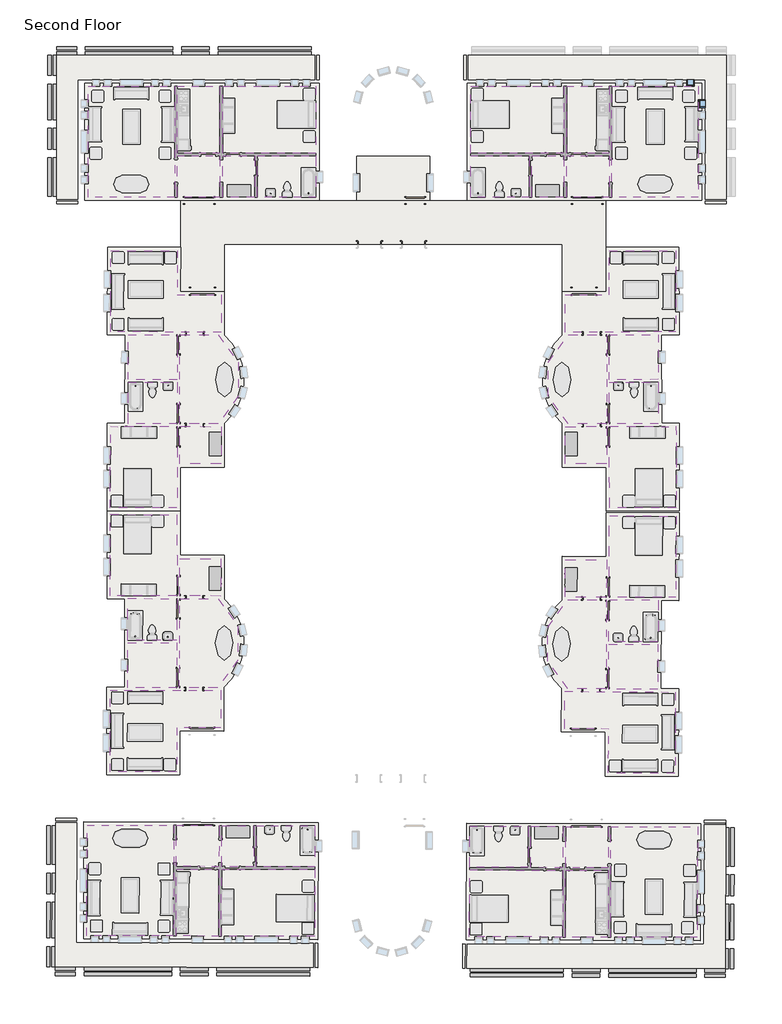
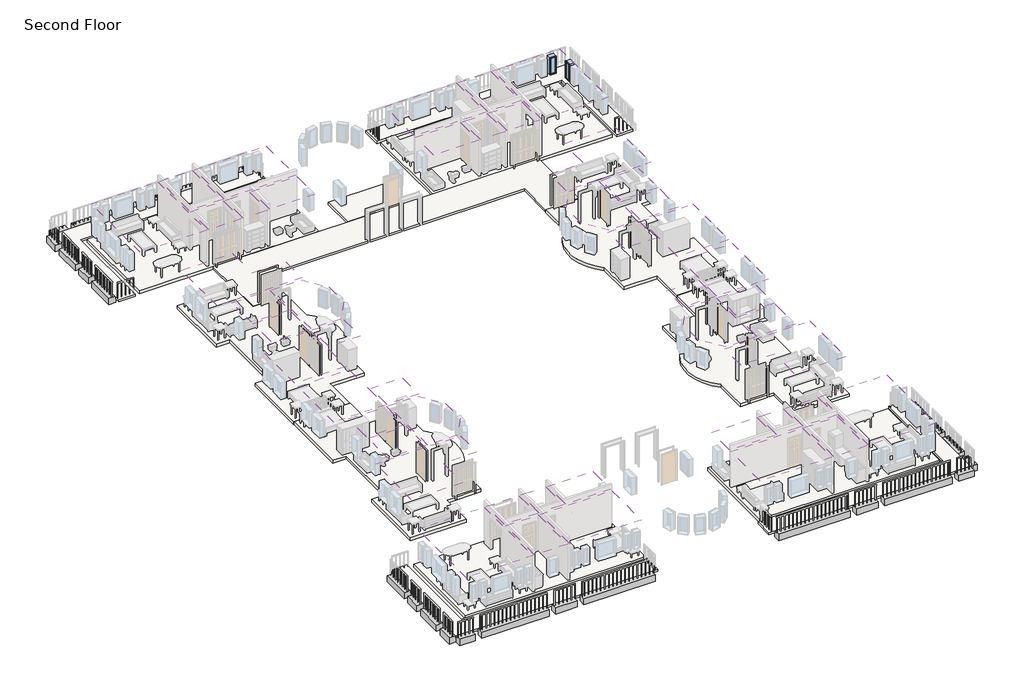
# One storey, part 3 of 8: 48 coverings, 14 slabs, 6 beams, 2 windows.
"""IFC4 building model written with IfcOpenShell, lengths in millimetres."""

from ifc_helpers import new_model, si_unit, point, frame, frame_2d, origin, place, context, project, spatial, polyline, circle_curve, trimmed, segment, composite_curve, outline, extrude, transform, mapped, element, save
from components import m_fixed_0406_x_1220mm_57fee329, m_fixed_0406_x_1220mm_85c28f40

model = new_model("IFC4")

# Units and contexts
model_context = context("Model", 3, world=origin())
ifc_project = project(units=[si_unit("LENGTHUNIT", "METRE", prefix="MILLI")], contexts=[model_context])

# Site, building, storey
site = spatial("IfcSite", under=ifc_project)
building = spatial("IfcBuilding", under=site)
storey = spatial("IfcBuildingStorey", under=building, Name="Second Floor", Elevation=3048.0)

# Beams
placement = place(None, origin())
element("IfcBeam", 1, ObjectType="M_Concrete-Rectangular Beam : 450 x 450", at=placement, inside=storey, context=model_context, shape_type="SweptSolid", body=[
    extrude(outline(polyline([(-36458.8416203, 4031.1188386), (-36458.8416203, 4481.1188386), (-35408.8416203, 4481.1188386), (-35408.8416203, 4031.1188386), (-36458.8416203, 4031.1188386)])), frame((0.0, 0.0, 2598.0), z_axis=(0.0, 0.0, 1.0), x_axis=(1.0, 0.0, 0.0)), (0.0, 0.0, 1.0), 450.0),
    extrude(outline(polyline([(-23216.8416203, 4481.1188386), (-23216.8416203, 4031.1188386), (-28058.8416203, 4031.1188386), (-28058.8416203, 4481.1188386), (-23216.8416203, 4481.1188386)])), frame((0.0, 0.0, 2598.0), z_axis=(0.0, 0.0, 1.0), x_axis=(1.0, 0.0, 0.0)), (0.0, 0.0, 1.0), 450.0),
    extrude(outline(polyline([(-34958.8416203, 4031.1188386), (-34958.8416203, 4481.1188386), (-30408.8416203, 4481.1188386), (-30408.8416203, 4031.1188386), (-34958.8416203, 4031.1188386)])), frame((0.0, 0.0, 2598.0), z_axis=(0.0, 0.0, 1.0), x_axis=(1.0, 0.0, 0.0)), (0.0, 0.0, 1.0), 450.0),
    extrude(outline(polyline([(-29958.8416203, 4031.1188386), (-29958.8416203, 4481.1188386), (-28508.8416203, 4481.1188386), (-28508.8416203, 4031.1188386), (-29958.8416203, 4031.1188386)])), frame((0.0, 0.0, 2598.0), z_axis=(0.0, 0.0, 1.0), x_axis=(1.0, 0.0, 0.0)), (0.0, 0.0, 1.0), 450.0),
])
element("IfcBeam", 2, ObjectType="M_Concrete-Rectangular Beam : 450 x 450", at=placement, inside=storey, context=model_context, shape_type="SweptSolid", body=[
    extrude(outline(polyline([(-36458.8416203, -3289.8811614), (-36908.8416203, -3289.8811614), (-36908.8416203, -1295.3811614), (-36458.8416203, -1295.3811614), (-36458.8416203, -3289.8811614)])), frame((0.0, 0.0, 2598.0), z_axis=(0.0, 0.0, 1.0), x_axis=(1.0, 0.0, 0.0)), (0.0, 0.0, 1.0), 450.0),
    extrude(outline(polyline([(-36458.8416203, 2981.1188386), (-36908.8416203, 2981.1188386), (-36908.8416203, 4031.1188386), (-36458.8416203, 4031.1188386), (-36458.8416203, 2981.1188386)])), frame((0.0, 0.0, 2598.0), z_axis=(0.0, 0.0, 1.0), x_axis=(1.0, 0.0, 0.0)), (0.0, 0.0, 1.0), 450.0),
    extrude(outline(polyline([(-36908.8416203, 2531.1188386), (-36458.8416203, 2531.1188386), (-36458.8416203, 681.1188386), (-36908.8416203, 681.1188386), (-36908.8416203, 2531.1188386)])), frame((0.0, 0.0, 2598.0), z_axis=(0.0, 0.0, 1.0), x_axis=(1.0, 0.0, 0.0)), (0.0, 0.0, 1.0), 450.0),
    extrude(outline(polyline([(-36908.8416203, 231.1188386), (-36458.8416203, 231.1188386), (-36458.8416203, -845.3811614), (-36908.8416203, -845.3811614), (-36908.8416203, 231.1188386)])), frame((0.0, 0.0, 2598.0), z_axis=(0.0, 0.0, 1.0), x_axis=(1.0, 0.0, 0.0)), (0.0, 0.0, 1.0), 450.0),
])
element("IfcBeam", 3, ObjectType="M_Concrete-Rectangular Beam : 450 x 450", at=placement, inside=storey, context=model_context, shape_type="SweptSolid", body=[
    extrude(outline(polyline([(-1712.0689607, -43451.2055858), (-1713.3716449, -43901.2037003), (-2763.3672453, -43898.1641037), (-2762.0645611, -43448.1659892), (-1712.0689607, -43451.2055858)])), frame((0.0, 0.0, 2598.0), z_axis=(0.0, 0.0, 1.0), x_axis=(1.0, 0.0, 0.0)), (0.0, 0.0, 1.0), 450.0),
    extrude(outline(polyline([(-14955.3161596, -43862.8700448), (-14954.0134754, -43412.8719303), (-10112.0337638, -43426.888813), (-10113.3364481, -43876.8869274), (-14955.3161596, -43862.8700448)])), frame((0.0, 0.0, 2598.0), z_axis=(0.0, 0.0, 1.0), x_axis=(1.0, 0.0, 0.0)), (0.0, 0.0, 1.0), 450.0),
    extrude(outline(polyline([(-3212.0626755, -43446.863305), (-3213.3653598, -43896.8614194), (-7763.3462948, -43883.6898341), (-7762.0436106, -43433.6917196), (-3212.0626755, -43446.863305)])), frame((0.0, 0.0, 2598.0), z_axis=(0.0, 0.0, 1.0), x_axis=(1.0, 0.0, 0.0)), (0.0, 0.0, 1.0), 450.0),
    extrude(outline(polyline([(-8212.041725, -43432.3890354), (-8213.3444093, -43882.3871498), (-9663.3383336, -43878.1896117), (-9662.0356494, -43428.1914972), (-8212.041725, -43432.3890354)])), frame((0.0, 0.0, 2598.0), z_axis=(0.0, 0.0, 1.0), x_axis=(1.0, 0.0, 0.0)), (0.0, 0.0, 1.0), 450.0),
])
element("IfcBeam", 4, ObjectType="M_Concrete-Rectangular Beam : 450 x 450", at=placement, inside=storey, context=model_context, shape_type="SweptSolid", body=[
    extrude(outline(polyline([(-1690.8757352, -36130.2362615), (-1240.8776207, -36131.5389458), (-1246.6514068, -38126.0305886), (-1696.6495213, -38124.7279044), (-1690.8757352, -36130.2362615)])), frame((0.0, 0.0, 2598.0), z_axis=(0.0, 0.0, 1.0), x_axis=(1.0, 0.0, 0.0)), (0.0, 0.0, 1.0), 450.0),
    extrude(outline(polyline([(-1709.0293641, -42401.2099854), (-1259.0312496, -42402.5126697), (-1262.0708462, -43452.5082701), (-1712.0689607, -43451.2055858), (-1709.0293641, -42401.2099854)])), frame((0.0, 0.0, 2598.0), z_axis=(0.0, 0.0, 1.0), x_axis=(1.0, 0.0, 0.0)), (0.0, 0.0, 1.0), 450.0),
    extrude(outline(polyline([(-1257.7285653, -41952.5145552), (-1707.7266798, -41951.211871), (-1702.3712001, -40101.2196227), (-1252.3730856, -40102.5223069), (-1257.7285653, -41952.5145552)])), frame((0.0, 0.0, 2598.0), z_axis=(0.0, 0.0, 1.0), x_axis=(1.0, 0.0, 0.0)), (0.0, 0.0, 1.0), 450.0),
    extrude(outline(polyline([(-1251.0704013, -39652.5241925), (-1701.0685158, -39651.2215082), (-1697.9522056, -38574.7260188), (-1247.9540911, -38576.0287031), (-1251.0704013, -39652.5241925)])), frame((0.0, 0.0, 2598.0), z_axis=(0.0, 0.0, 1.0), x_axis=(1.0, 0.0, 0.0)), (0.0, 0.0, 1.0), 450.0),
])
element("IfcBeam", 5, ObjectType="M_Concrete-Rectangular Beam : 450 x 450", at=placement, inside=storey, context=model_context, shape_type="SweptSolid", body=[
    extrude(outline(polyline([(-36528.7257646, -43800.4179138), (-36527.4230803, -43350.4197994), (-35477.4274799, -43353.459396), (-35478.7301642, -43803.4575104), (-36528.7257646, -43800.4179138)])), frame((0.0, 0.0, 2598.0), z_axis=(0.0, 0.0, 1.0), x_axis=(1.0, 0.0, 0.0)), (0.0, 0.0, 1.0), 450.0),
    extrude(outline(polyline([(-23285.4785656, -43388.7534549), (-23286.7812498, -43838.7515694), (-28128.7609614, -43824.7346867), (-28127.4582771, -43374.7365723), (-23285.4785656, -43388.7534549)])), frame((0.0, 0.0, 2598.0), z_axis=(0.0, 0.0, 1.0), x_axis=(1.0, 0.0, 0.0)), (0.0, 0.0, 1.0), 450.0),
    extrude(outline(polyline([(-35028.7320497, -43804.7601947), (-35027.4293654, -43354.7620803), (-30477.4484304, -43367.9336656), (-30478.7511147, -43817.93178), (-35028.7320497, -43804.7601947)])), frame((0.0, 0.0, 2598.0), z_axis=(0.0, 0.0, 1.0), x_axis=(1.0, 0.0, 0.0)), (0.0, 0.0, 1.0), 450.0),
    extrude(outline(polyline([(-30028.7530002, -43819.2344643), (-30027.4503159, -43369.2363498), (-28577.4563916, -43373.433888), (-28578.7590758, -43823.4320025), (-30028.7530002, -43819.2344643)])), frame((0.0, 0.0, 2598.0), z_axis=(0.0, 0.0, 1.0), x_axis=(1.0, 0.0, 0.0)), (0.0, 0.0, 1.0), 450.0),
])
element("IfcBeam", 6, ObjectType="M_Concrete-Rectangular Beam : 450 x 450", at=placement, inside=storey, context=model_context, shape_type="SweptSolid", body=[
    extrude(outline(polyline([(-36974.3815981, -42299.1215147), (-36524.3834837, -42300.424199), (-36527.4230803, -43350.4197994), (-36977.4211948, -43349.1171151), (-36974.3815981, -42299.1215147)])), frame((0.0, 0.0, 2598.0), z_axis=(0.0, 0.0, 1.0), x_axis=(1.0, 0.0, 0.0)), (0.0, 0.0, 1.0), 450.0),
    extrude(outline(polyline([(-36956.2279692, -36028.1477908), (-36506.2298548, -36029.4504751), (-36512.0036409, -38023.9421179), (-36962.0017554, -38022.6394337), (-36956.2279692, -36028.1477908)])), frame((0.0, 0.0, 2598.0), z_axis=(0.0, 0.0, 1.0), x_axis=(1.0, 0.0, 0.0)), (0.0, 0.0, 1.0), 450.0),
    extrude(outline(polyline([(-36523.0807994, -41850.4260845), (-36973.0789139, -41849.1234003), (-36967.7234341, -39999.1311519), (-36517.7253197, -40000.4338362), (-36523.0807994, -41850.4260845)])), frame((0.0, 0.0, 2598.0), z_axis=(0.0, 0.0, 1.0), x_axis=(1.0, 0.0, 0.0)), (0.0, 0.0, 1.0), 450.0),
    extrude(outline(polyline([(-36516.4226354, -39550.4357218), (-36966.4207499, -39549.1330375), (-36963.3044396, -38472.6375481), (-36513.3063252, -38473.9402324), (-36516.4226354, -39550.4357218)])), frame((0.0, 0.0, 2598.0), z_axis=(0.0, 0.0, 1.0), x_axis=(1.0, 0.0, 0.0)), (0.0, 0.0, 1.0), 450.0),
])

# Coverings
element("IfcCovering", 7, ObjectType="Plain", at=placement, inside=storey, context=model_context, shape_type="SweptSolid", body=[
    extrude(outline(polyline([(-14935.3416203, 2406.1188386), (-10086.8416203, 2406.1188386), (-10086.8416203, -1070.3811614), (-14935.3416203, -1070.3811614), (-14935.3416203, 2406.1188386)])), frame((0.0, 0.0, 5638.0), z_axis=(0.0, 0.0, 1.0), x_axis=(1.0, 0.0, 0.0)), (0.0, 0.0, 1.0), 57.0),
])
element("IfcCovering", 8, ObjectType="Plain", at=placement, inside=storey, context=model_context, shape_type="SweptSolid", body=[
    extrude(outline(polyline([(-9951.3416203, -1070.3811614), (-9951.3416203, 2406.1188386), (-7733.0916203, 2406.1188386), (-7733.0916203, -1070.3811614), (-9951.3416203, -1070.3811614)])), frame((0.0, 0.0, 5638.0), z_axis=(0.0, 0.0, 1.0), x_axis=(1.0, 0.0, 0.0)), (0.0, 0.0, 1.0), 57.0),
])
element("IfcCovering", 9, ObjectType="Plain", at=placement, inside=storey, context=model_context, shape_type="SweptSolid", body=[
    extrude(outline(polyline([(-7597.5916203, -3339.8811614), (-7597.5916203, 2406.1188386), (-3093.3416203, 2406.1188386), (-3093.3416203, -3339.8811614), (-7597.5916203, -3339.8811614)])), frame((0.0, 0.0, 5638.0), z_axis=(0.0, 0.0, 1.0), x_axis=(1.0, 0.0, 0.0)), (0.0, 0.0, 1.0), 57.0),
])
element("IfcCovering", 10, ObjectType="Plain", at=placement, inside=storey, context=model_context, shape_type="SweptSolid", body=[
    extrude(outline(polyline([(-7733.0916203, -3339.8811614), (-9951.3416203, -3339.8811614), (-9951.3416203, -1205.8811614), (-7733.0916203, -1205.8811614), (-7733.0916203, -3339.8811614)])), frame((0.0, 0.0, 5638.0), z_axis=(0.0, 0.0, 1.0), x_axis=(1.0, 0.0, 0.0)), (0.0, 0.0, 1.0), 57.0),
])
element("IfcCovering", 11, ObjectType="Plain", at=placement, inside=storey, context=model_context, shape_type="SweptSolid", body=[
    extrude(outline(polyline([(-11887.3416203, -1205.8811614), (-11887.3416203, -3339.8811614), (-14935.3416203, -3339.8811614), (-14935.3416203, -1205.8811614), (-11887.3416203, -1205.8811614)])), frame((0.0, 0.0, 5638.0), z_axis=(0.0, 0.0, 1.0), x_axis=(1.0, 0.0, 0.0)), (0.0, 0.0, 1.0), 57.0),
])
element("IfcCovering", 12, ObjectType="Plain", at=placement, inside=storey, context=model_context, shape_type="SweptSolid", body=[
    extrude(outline(polyline([(-10086.8416203, -3339.8811614), (-11751.8416203, -3339.8811614), (-11751.8416203, -1205.8811614), (-10086.8416203, -1205.8811614), (-10086.8416203, -3339.8811614)])), frame((0.0, 0.0, 5638.0), z_axis=(0.0, 0.0, 1.0), x_axis=(1.0, 0.0, 0.0)), (0.0, 0.0, 1.0), 57.0),
])
element("IfcCovering", 13, ObjectType="Plain", at=placement, inside=storey, context=model_context, shape_type="SweptSolid", body=[
    extrude(outline(polyline([(-7719.603401, -17382.7647995), (-7726.8533934, -17382.7752934), (-7729.9194088, -15264.5275123), (-5002.0722663, -15260.5791445), (-5002.0617724, -15267.829137), (-4262.662547, -15266.7589083), (-4256.5515039, -19488.7544857), (-7716.5478795, -19493.7625882), (-7719.603401, -17382.7647995)])), frame((0.0, 0.0, 5639.0), z_axis=(0.0, 0.0, 1.0), x_axis=(1.0, 0.0, 0.0)), (0.0, 0.0, 1.0), 57.0),
])
element("IfcCovering", 14, ObjectType="Plain", at=placement, inside=storey, context=model_context, shape_type="SweptSolid", body=[
    extrude(outline(polyline([(-7730.1155353, -15129.0276542), (-7733.2504483, -12963.179923), (-5180.4031225, -12959.4848553), (-5177.2682095, -15125.3325865), (-7730.1155353, -15129.0276542)])), frame((0.0, 0.0, 5639.0), z_axis=(0.0, 0.0, 1.0), x_axis=(1.0, 0.0, 0.0)), (0.0, 0.0, 1.0), 57.0),
])
element("IfcCovering", 15, ObjectType="Plain", at=placement, inside=storey, context=model_context, shape_type="SweptSolid", body=[
    extrude(outline(polyline([(-7733.4465749, -12827.680065), (-7736.8265375, -10492.5325111), (-5183.9792116, -10488.8374433), (-5180.599249, -12823.9849972), (-7733.4465749, -12827.680065)])), frame((0.0, 0.0, 5639.0), z_axis=(0.0, 0.0, 1.0), x_axis=(1.0, 0.0, 0.0)), (0.0, 0.0, 1.0), 57.0),
])
element("IfcCovering", 16, ObjectType="Plain", at=placement, inside=storey, context=model_context, shape_type="SweptSolid", body=[
    extrude(outline(polyline([(-10015.770277, -10360.3309807), (-10018.5829924, -8417.0830163), (-7732.585387, -8413.7741948), (-7735.8942085, -6127.7765894), (-4275.8978329, -6122.7684869), (-4269.7867899, -10344.7640643), (-5009.1860154, -10345.8342929), (-5009.1755215, -10353.0842853), (-10015.770277, -10360.3309807)])), frame((0.0, 0.0, 5639.0), z_axis=(0.0, 0.0, 1.0), x_axis=(1.0, 0.0, 0.0)), (0.0, 0.0, 1.0), 57.0),
])
element("IfcCovering", 17, ObjectType="Plain", at=placement, inside=storey, context=model_context, shape_type="SweptSolid", body=[
    extrude(outline(composite_curve([segment(polyline([(-9871.5226854, -10495.6223343), (-7872.3263955, -10492.7286377), (-7865.6153934, -15129.2237808), (-9864.8116833, -15132.1174775)]), True, "CONTINUOUS"), segment(trimmed(circle_curve(frame_2d((-8171.1580789, -12811.413604)), 2873.0), [point((-9864.8116833, -15132.1174775))], [point((-9871.5226854, -10495.6223343))], False, "CARTESIAN"), True, "CONTINUOUS")], self_intersect=False)), frame((0.0, 0.0, 5639.0), z_axis=(0.0, 0.0, 1.0), x_axis=(1.0, 0.0, 0.0)), (0.0, 0.0, 1.0), 57.0),
])
element("IfcCovering", 18, ObjectType="Plain", at=placement, inside=storey, context=model_context, shape_type="SweptSolid", body=[
    extrude(outline(polyline([(-10008.6670217, -15267.8258399), (-7865.4192668, -15264.7236389), (-7862.6065515, -17207.9716033), (-10005.8543064, -17211.0738043), (-10008.6670217, -15267.8258399)])), frame((0.0, 0.0, 5639.0), z_axis=(0.0, 0.0, 1.0), x_axis=(1.0, 0.0, 0.0)), (0.0, 0.0, 1.0), 57.0),
])
element("IfcCovering", 19, ObjectType="Plain", at=placement, inside=storey, context=model_context, shape_type="SweptSolid", body=[
    extrude(outline(polyline([(-22978.8416203, 2406.1188386), (-22978.8416203, -1070.3811614), (-27827.3416203, -1070.3811614), (-27827.3416203, 2406.1188386), (-22978.8416203, 2406.1188386)])), frame((0.0, 0.0, 5638.0), z_axis=(0.0, 0.0, 1.0), x_axis=(1.0, 0.0, 0.0)), (0.0, 0.0, 1.0), 57.0),
])
element("IfcCovering", 20, ObjectType="Plain", at=placement, inside=storey, context=model_context, shape_type="SweptSolid", body=[
    extrude(outline(polyline([(-27962.8416203, -1070.3811614), (-30181.0916203, -1070.3811614), (-30181.0916203, 2406.1188386), (-27962.8416203, 2406.1188386), (-27962.8416203, -1070.3811614)])), frame((0.0, 0.0, 5638.0), z_axis=(0.0, 0.0, 1.0), x_axis=(1.0, 0.0, 0.0)), (0.0, 0.0, 1.0), 57.0),
])
element("IfcCovering", 21, ObjectType="Plain", at=placement, inside=storey, context=model_context, shape_type="SweptSolid", body=[
    extrude(outline(polyline([(-30316.5916203, -3339.8811614), (-34820.8416203, -3339.8811614), (-34820.8416203, 2406.1188386), (-30316.5916203, 2406.1188386), (-30316.5916203, -3339.8811614)])), frame((0.0, 0.0, 5638.0), z_axis=(0.0, 0.0, 1.0), x_axis=(1.0, 0.0, 0.0)), (0.0, 0.0, 1.0), 57.0),
])
element("IfcCovering", 22, ObjectType="Plain", at=placement, inside=storey, context=model_context, shape_type="SweptSolid", body=[
    extrude(outline(polyline([(-30181.0916203, -3339.8811614), (-30181.0916203, -1205.8811614), (-27962.8416203, -1205.8811614), (-27962.8416203, -3339.8811614), (-30181.0916203, -3339.8811614)])), frame((0.0, 0.0, 5638.0), z_axis=(0.0, 0.0, 1.0), x_axis=(1.0, 0.0, 0.0)), (0.0, 0.0, 1.0), 57.0),
])
element("IfcCovering", 23, ObjectType="Plain", at=placement, inside=storey, context=model_context, shape_type="SweptSolid", body=[
    extrude(outline(polyline([(-26026.8416203, -1205.8811614), (-22978.8416203, -1205.8811614), (-22978.8416203, -3339.8811614), (-26026.8416203, -3339.8811614), (-26026.8416203, -1205.8811614)])), frame((0.0, 0.0, 5638.0), z_axis=(0.0, 0.0, 1.0), x_axis=(1.0, 0.0, 0.0)), (0.0, 0.0, 1.0), 57.0),
])
element("IfcCovering", 24, ObjectType="Plain", at=placement, inside=storey, context=model_context, shape_type="SweptSolid", body=[
    extrude(outline(polyline([(-27827.3416203, -3339.8811614), (-27827.3416203, -1205.8811614), (-26162.3416203, -1205.8811614), (-26162.3416203, -3339.8811614), (-27827.3416203, -3339.8811614)])), frame((0.0, 0.0, 5638.0), z_axis=(0.0, 0.0, 1.0), x_axis=(1.0, 0.0, 0.0)), (0.0, 0.0, 1.0), 57.0),
])
element("IfcCovering", 25, ObjectType="Plain", at=placement, inside=storey, context=model_context, shape_type="SweptSolid", body=[
    extrude(outline(polyline([(-30194.5798396, -17382.7647995), (-30197.6353611, -19493.7625882), (-33657.6317367, -19488.7544857), (-33651.5206937, -15266.7589083), (-32912.1214682, -15267.829137), (-32912.1109744, -15260.5791445), (-30184.2638319, -15264.5275123), (-30187.3298472, -17382.7752934), (-30194.5798396, -17382.7647995)])), frame((0.0, 0.0, 5639.0), z_axis=(0.0, 0.0, 1.0), x_axis=(1.0, 0.0, 0.0)), (0.0, 0.0, 1.0), 57.0),
])
element("IfcCovering", 26, ObjectType="Plain", at=placement, inside=storey, context=model_context, shape_type="SweptSolid", body=[
    extrude(outline(polyline([(-30184.0677053, -15129.0276542), (-32736.9150311, -15125.3325865), (-32733.7801182, -12959.4848553), (-30180.9327923, -12963.179923), (-30184.0677053, -15129.0276542)])), frame((0.0, 0.0, 5639.0), z_axis=(0.0, 0.0, 1.0), x_axis=(1.0, 0.0, 0.0)), (0.0, 0.0, 1.0), 57.0),
])
element("IfcCovering", 27, ObjectType="Plain", at=placement, inside=storey, context=model_context, shape_type="SweptSolid", body=[
    extrude(outline(polyline([(-30180.7366658, -12827.680065), (-32733.5839916, -12823.9849972), (-32730.204029, -10488.8374433), (-30177.3567032, -10492.5325111), (-30180.7366658, -12827.680065)])), frame((0.0, 0.0, 5639.0), z_axis=(0.0, 0.0, 1.0), x_axis=(1.0, 0.0, 0.0)), (0.0, 0.0, 1.0), 57.0),
])
element("IfcCovering", 28, ObjectType="Plain", at=placement, inside=storey, context=model_context, shape_type="SweptSolid", body=[
    extrude(outline(polyline([(-27898.4129637, -10360.3309807), (-32905.0077191, -10353.0842853), (-32904.9972253, -10345.8342929), (-33644.3964507, -10344.7640643), (-33638.2854077, -6122.7684869), (-30178.2890322, -6127.7765894), (-30181.5978537, -8413.7741948), (-27895.6002483, -8417.0830163), (-27898.4129637, -10360.3309807)])), frame((0.0, 0.0, 5639.0), z_axis=(0.0, 0.0, 1.0), x_axis=(1.0, 0.0, 0.0)), (0.0, 0.0, 1.0), 57.0),
])
element("IfcCovering", 29, ObjectType="Plain", at=placement, inside=storey, context=model_context, shape_type="SweptSolid", body=[
    extrude(outline(composite_curve([segment(trimmed(circle_curve(frame_2d((-29743.0251618, -12811.413604)), 2873.0), [point((-28042.6605552, -10495.6223343))], [point((-28049.3715573, -15132.1174775))], False, "CARTESIAN"), True, "CONTINUOUS"), segment(polyline([(-28049.3715573, -15132.1174775), (-30048.5678472, -15129.2237808), (-30041.8568451, -10492.7286377), (-28042.6605552, -10495.6223343)]), True, "CONTINUOUS")], self_intersect=False)), frame((0.0, 0.0, 5639.0), z_axis=(0.0, 0.0, 1.0), x_axis=(1.0, 0.0, 0.0)), (0.0, 0.0, 1.0), 57.0),
])
element("IfcCovering", 30, ObjectType="Plain", at=placement, inside=storey, context=model_context, shape_type="SweptSolid", body=[
    extrude(outline(polyline([(-27905.5162189, -15267.8258399), (-27908.3289343, -17211.0738043), (-30051.5766892, -17207.9716033), (-30048.7639738, -15264.7236389), (-27905.5162189, -15267.8258399)])), frame((0.0, 0.0, 5639.0), z_axis=(0.0, 0.0, 1.0), x_axis=(1.0, 0.0, 0.0)), (0.0, 0.0, 1.0), 57.0),
])
element("IfcCovering", 31, ObjectType="Plain", at=placement, inside=storey, context=model_context, shape_type="SweptSolid", body=[
    extrude(outline(polyline([(-14999.3091283, -41787.7339965), (-14989.2451686, -38311.2485634), (-10140.7654843, -38325.2842626), (-10150.829444, -41801.7696957), (-14999.3091283, -41787.7339965)])), frame((0.0, 0.0, 5638.0), z_axis=(0.0, 0.0, 1.0), x_axis=(1.0, 0.0, 0.0)), (0.0, 0.0, 1.0), 57.0),
])
element("IfcCovering", 32, ObjectType="Plain", at=placement, inside=storey, context=model_context, shape_type="SweptSolid", body=[
    extrude(outline(polyline([(-10005.2660521, -38325.6765153), (-7787.0253468, -38332.098025), (-7797.0893064, -41808.5834581), (-10015.3300117, -41802.1619484), (-10005.2660521, -38325.6765153)])), frame((0.0, 0.0, 5638.0), z_axis=(0.0, 0.0, 1.0), x_axis=(1.0, 0.0, 0.0)), (0.0, 0.0, 1.0), 57.0),
])
element("IfcCovering", 33, ObjectType="Plain", at=placement, inside=storey, context=model_context, shape_type="SweptSolid", body=[
    extrude(outline(polyline([(-7644.9560436, -36062.9997871), (-3140.7249168, -36076.0389329), (-3157.3587474, -41822.0148566), (-7661.5898742, -41808.9757108), (-7644.9560436, -36062.9997871)])), frame((0.0, 0.0, 5638.0), z_axis=(0.0, 0.0, 1.0), x_axis=(1.0, 0.0, 0.0)), (0.0, 0.0, 1.0), 57.0),
])
element("IfcCovering", 34, ObjectType="Plain", at=placement, inside=storey, context=model_context, shape_type="SweptSolid", body=[
    extrude(outline(polyline([(-7780.4554758, -36062.6075344), (-7786.6330941, -38196.5985928), (-10004.8737994, -38190.1770831), (-9998.6961811, -36056.1860247), (-7780.4554758, -36062.6075344)])), frame((0.0, 0.0, 5638.0), z_axis=(0.0, 0.0, 1.0), x_axis=(1.0, 0.0, 0.0)), (0.0, 0.0, 1.0), 57.0),
])
element("IfcCovering", 35, ObjectType="Plain", at=placement, inside=storey, context=model_context, shape_type="SweptSolid", body=[
    extrude(outline(polyline([(-11940.8656874, -38184.5726459), (-14988.8529159, -38175.7491311), (-14982.6752977, -36041.7580728), (-11934.6880691, -36050.5815875), (-11940.8656874, -38184.5726459)])), frame((0.0, 0.0, 5638.0), z_axis=(0.0, 0.0, 1.0), x_axis=(1.0, 0.0, 0.0)), (0.0, 0.0, 1.0), 57.0),
])
element("IfcCovering", 36, ObjectType="Plain", at=placement, inside=storey, context=model_context, shape_type="SweptSolid", body=[
    extrude(outline(polyline([(-10134.1956134, -36055.793772), (-10140.3732316, -38189.7848304), (-11805.3662551, -38184.9648986), (-11799.1886369, -36050.9738403), (-10134.1956134, -36055.793772)])), frame((0.0, 0.0, 5638.0), z_axis=(0.0, 0.0, 1.0), x_axis=(1.0, 0.0, 0.0)), (0.0, 0.0, 1.0), 57.0),
])
element("IfcCovering", 37, ObjectType="Plain", at=placement, inside=storey, context=model_context, shape_type="SweptSolid", body=[
    extrude(outline(polyline([(-7726.3152164, -22019.8217838), (-7717.1486774, -19908.8416857), (-4257.1812973, -19923.8659512), (-4275.5143752, -24145.8261474), (-5014.9074043, -24142.6154706), (-5014.9388858, -24149.8654022), (-7742.7631684, -24138.020332), (-7733.565148, -22019.7903023), (-7726.3152164, -22019.8217838)])), frame((0.0, 0.0, 5639.0), z_axis=(0.0, 0.0, 1.0), x_axis=(1.0, 0.0, 0.0)), (0.0, 0.0, 1.0), 57.0),
])
element("IfcCovering", 38, ObjectType="Plain", at=placement, inside=storey, context=model_context, shape_type="SweptSolid", body=[
    extrude(outline(polyline([(-7743.3515464, -24273.5190546), (-5190.525614, -24284.6042269), (-5199.9303266, -26450.4338079), (-7752.756259, -26439.3486356), (-7743.3515464, -24273.5190546)])), frame((0.0, 0.0, 5639.0), z_axis=(0.0, 0.0, 1.0), x_axis=(1.0, 0.0, 0.0)), (0.0, 0.0, 1.0), 57.0),
])
element("IfcCovering", 39, ObjectType="Plain", at=placement, inside=storey, context=model_context, shape_type="SweptSolid", body=[
    extrude(outline(polyline([(-7753.3446371, -26574.8473581), (-5200.5187046, -26585.9325305), (-5210.6585641, -28921.0605153), (-7763.4844965, -28909.975343), (-7753.3446371, -26574.8473581)])), frame((0.0, 0.0, 5639.0), z_axis=(0.0, 0.0, 1.0), x_axis=(1.0, 0.0, 0.0)), (0.0, 0.0, 1.0), 57.0),
])
element("IfcCovering", 40, ObjectType="Plain", at=placement, inside=storey, context=model_context, shape_type="SweptSolid", body=[
    extrude(outline(polyline([(-10042.8013912, -29035.5791103), (-5036.248592, -29057.3191357), (-5036.2800734, -29064.5690674), (-4296.8870443, -29067.7797442), (-4315.2201221, -33289.7399404), (-7775.1875022, -33274.7156749), (-7765.2610655, -30988.7372266), (-10051.2395137, -30978.8107899), (-10042.8013912, -29035.5791103)])), frame((0.0, 0.0, 5639.0), z_axis=(0.0, 0.0, 1.0), x_axis=(1.0, 0.0, 0.0)), (0.0, 0.0, 1.0), 57.0),
])
element("IfcCovering", 41, ObjectType="Plain", at=placement, inside=storey, context=model_context, shape_type="SweptSolid", body=[
    extrude(outline(composite_curve([segment(trimmed(circle_curve(frame_2d((-8191.1013961, -26589.84664)), 2873.0), [point((-9898.1627553, -28900.7058992))], [point((-9878.0298052, -24264.2496108))], False, "CARTESIAN"), True, "CONTINUOUS"), segment(polyline([(-9878.0298052, -24264.2496108), (-7878.850269, -24272.9306765), (-7898.9832191, -28909.3869649), (-9898.1627553, -28900.7058992)]), True, "CONTINUOUS")], self_intersect=False)), frame((0.0, 0.0, 5639.0), z_axis=(0.0, 0.0, 1.0), x_axis=(1.0, 0.0, 0.0)), (0.0, 0.0, 1.0), 57.0),
])
element("IfcCovering", 42, ObjectType="Plain", at=placement, inside=storey, context=model_context, shape_type="SweptSolid", body=[
    extrude(outline(polyline([(-10021.491685, -24128.1253768), (-10013.0535624, -22184.8936972), (-7869.8237684, -22194.2002744), (-7878.2618909, -24137.431954), (-10021.491685, -24128.1253768)])), frame((0.0, 0.0, 5639.0), z_axis=(0.0, 0.0, 1.0), x_axis=(1.0, 0.0, 0.0)), (0.0, 0.0, 1.0), 57.0),
])
element("IfcCovering", 43, ObjectType="Plain", at=placement, inside=storey, context=model_context, shape_type="SweptSolid", body=[
    extrude(outline(polyline([(-23042.7754252, -41764.4492391), (-27891.2551095, -41750.4135399), (-27881.1911499, -38273.9281067), (-23032.7114656, -38287.9638059), (-23042.7754252, -41764.4492391)])), frame((0.0, 0.0, 5638.0), z_axis=(0.0, 0.0, 1.0), x_axis=(1.0, 0.0, 0.0)), (0.0, 0.0, 1.0), 57.0),
])
element("IfcCovering", 44, ObjectType="Plain", at=placement, inside=storey, context=model_context, shape_type="SweptSolid", body=[
    extrude(outline(polyline([(-28016.6905821, -38273.535854), (-28026.7545418, -41750.0212871), (-30244.9952471, -41743.5997775), (-30234.9312874, -38267.1143443), (-28016.6905821, -38273.535854)])), frame((0.0, 0.0, 5638.0), z_axis=(0.0, 0.0, 1.0), x_axis=(1.0, 0.0, 0.0)), (0.0, 0.0, 1.0), 57.0),
])
element("IfcCovering", 45, ObjectType="Plain", at=placement, inside=storey, context=model_context, shape_type="SweptSolid", body=[
    extrude(outline(polyline([(-30363.8608487, -35997.2316011), (-30380.4946793, -41743.2075247), (-34884.7258061, -41730.168379), (-34868.0919755, -35984.1924553), (-30363.8608487, -35997.2316011)])), frame((0.0, 0.0, 5638.0), z_axis=(0.0, 0.0, 1.0), x_axis=(1.0, 0.0, 0.0)), (0.0, 0.0, 1.0), 57.0),
])
element("IfcCovering", 46, ObjectType="Plain", at=placement, inside=storey, context=model_context, shape_type="SweptSolid", body=[
    extrude(outline(polyline([(-30228.3614165, -35997.6238538), (-28010.1207112, -36004.0453635), (-28016.2983294, -38138.0364218), (-30234.5390347, -38131.6149121), (-30228.3614165, -35997.6238538)])), frame((0.0, 0.0, 5638.0), z_axis=(0.0, 0.0, 1.0), x_axis=(1.0, 0.0, 0.0)), (0.0, 0.0, 1.0), 57.0),
])
element("IfcCovering", 47, ObjectType="Plain", at=placement, inside=storey, context=model_context, shape_type="SweptSolid", body=[
    extrude(outline(polyline([(-26080.3064415, -38143.640859), (-26074.1288232, -36009.6498006), (-23026.1415946, -36018.4733154), (-23032.3192129, -38152.4643737), (-26080.3064415, -38143.640859)])), frame((0.0, 0.0, 5638.0), z_axis=(0.0, 0.0, 1.0), x_axis=(1.0, 0.0, 0.0)), (0.0, 0.0, 1.0), 57.0),
])
element("IfcCovering", 48, ObjectType="Plain", at=placement, inside=storey, context=model_context, shape_type="SweptSolid", body=[
    extrude(outline(polyline([(-27874.6212789, -36004.4376162), (-26209.6282554, -36009.2575479), (-26215.8058737, -38143.2486063), (-27880.7988972, -38138.4286745), (-27874.6212789, -36004.4376162)])), frame((0.0, 0.0, 5638.0), z_axis=(0.0, 0.0, 1.0), x_axis=(1.0, 0.0, 0.0)), (0.0, 0.0, 1.0), 57.0),
])
element("IfcCovering", 49, ObjectType="Plain", at=placement, inside=storey, context=model_context, shape_type="SweptSolid", body=[
    extrude(outline(polyline([(-30201.1974826, -21954.7600102), (-30193.9474902, -21954.7705041), (-30197.0135056, -24073.0182852), (-32924.8606481, -24069.0699174), (-32924.8501542, -24061.819925), (-33664.2493797, -24060.7496964), (-33658.1383367, -19838.7541191), (-30198.1419611, -19843.7622216), (-30201.1974826, -21954.7600102)])), frame((0.0, 0.0, 5639.0), z_axis=(0.0, 0.0, 1.0), x_axis=(1.0, 0.0, 0.0)), (0.0, 0.0, 1.0), 57.0),
])
element("IfcCovering", 50, ObjectType="Plain", at=placement, inside=storey, context=model_context, shape_type="SweptSolid", body=[
    extrude(outline(polyline([(-30197.2096321, -24208.5181432), (-30200.3445451, -26374.3658745), (-32753.1918709, -26370.6708067), (-32750.056958, -24204.8230755), (-30197.2096321, -24208.5181432)])), frame((0.0, 0.0, 5639.0), z_axis=(0.0, 0.0, 1.0), x_axis=(1.0, 0.0, 0.0)), (0.0, 0.0, 1.0), 57.0),
])
element("IfcCovering", 51, ObjectType="Plain", at=placement, inside=storey, context=model_context, shape_type="SweptSolid", body=[
    extrude(outline(polyline([(-30200.5406716, -26509.8657325), (-30203.9206342, -28845.0132864), (-32756.7679601, -28841.3182186), (-32753.3879975, -26506.1706647), (-30200.5406716, -26509.8657325)])), frame((0.0, 0.0, 5639.0), z_axis=(0.0, 0.0, 1.0), x_axis=(1.0, 0.0, 0.0)), (0.0, 0.0, 1.0), 57.0),
])
element("IfcCovering", 52, ObjectType="Plain", at=placement, inside=storey, context=model_context, shape_type="SweptSolid", body=[
    extrude(outline(polyline([(-27925.3691479, -28983.8114721), (-27928.1818632, -30927.0594365), (-30214.1794686, -30923.750615), (-30217.4882901, -33209.7482204), (-33677.4846656, -33204.7401178), (-33671.3736226, -28982.7445405), (-32931.9743972, -28983.8147691), (-32931.9639033, -28976.5647767), (-27925.3691479, -28983.8114721)])), frame((0.0, 0.0, 5639.0), z_axis=(0.0, 0.0, 1.0), x_axis=(1.0, 0.0, 0.0)), (0.0, 0.0, 1.0), 57.0),
])
element("IfcCovering", 53, ObjectType="Plain", at=placement, inside=storey, context=model_context, shape_type="SweptSolid", body=[
    extrude(outline(composite_curve([segment(polyline([(-28069.2244863, -28848.1031096), (-30068.4207762, -28845.209413), (-30061.7097741, -24208.7142698), (-28062.5134842, -24211.6079665)]), True, "CONTINUOUS"), segment(trimmed(circle_curve(frame_2d((-29762.8780907, -26527.3992362)), 2873.0), [point((-28062.5134842, -24211.6079665))], [point((-28069.2244863, -28848.1031096))], False, "CARTESIAN"), True, "CONTINUOUS")], self_intersect=False)), frame((0.0, 0.0, 5639.0), z_axis=(0.0, 0.0, 1.0), x_axis=(1.0, 0.0, 0.0)), (0.0, 0.0, 1.0), 57.0),
])
element("IfcCovering", 54, ObjectType="Plain", at=placement, inside=storey, context=model_context, shape_type="SweptSolid", body=[
    extrude(outline(polyline([(-27918.2658926, -24076.3166128), (-30061.5136475, -24073.2144117), (-30058.7009321, -22129.9664473), (-27915.4531772, -22133.0686484), (-27918.2658926, -24076.3166128)])), frame((0.0, 0.0, 5639.0), z_axis=(0.0, 0.0, 1.0), x_axis=(1.0, 0.0, 0.0)), (0.0, 0.0, 1.0), 57.0),
])

# Slabs
element("IfcSlab", 55, ObjectType="160mm Concrete With 50mm Metal Deck", at=placement, inside=storey, context=model_context, shape_type="SweptSolid", body=[
    extrude(outline(polyline([(-2928.3416203, 2571.1188386), (-2928.3416203, -3504.8811614), (-15100.3416203, -3504.8811614), (-15100.3416203, 2571.1188386), (-2928.3416203, 2571.1188386)])), frame((0.0, 0.0, 2838.0), z_axis=(0.0, 0.0, 1.0), x_axis=(1.0, 0.0, 0.0)), (0.0, 0.0, 1.0), 210.0),
])
element("IfcSlab", 56, ObjectType="160mm Concrete With 50mm Metal Deck", at=placement, inside=storey, context=model_context, shape_type="SweptSolid", body=[
    extrude(outline(composite_curve([segment(polyline([(-4091.3128511, -19653.5154871), (-7881.308881, -19659.0012411), (-7884.6177025, -17373.0036357), (-10170.6153078, -17376.3124572), (-10173.9161954, -15095.7962179)]), True, "CONTINUOUS"), segment(trimmed(circle_curve(frame_2d((-8171.1580789, -12811.413604)), 3038.0), [point((-10173.9161954, -15095.7962179))], [point((-10180.5207576, -10532.8382541))], False, "CARTESIAN"), True, "CONTINUOUS"), segment(polyline([(-10180.5207576, -10532.8382541), (-10183.8216452, -8252.3220148), (-7897.8240398, -8249.0131933), (-7901.1328613, -5963.015588), (-4111.1368315, -5957.5298341), (-4104.548137, -10509.5250657), (-5018.9471792, -10510.8485943), (-5012.3005876, -15102.8437841), (-4097.9015455, -15101.5202555), (-4091.3128511, -19653.5154871)]), True, "CONTINUOUS")], self_intersect=False)), frame((0.0, 0.0, 2838.0), z_axis=(0.0, 0.0, 1.0), x_axis=(1.0, 0.0, 0.0)), (0.0, 0.0, 1.0), 210.0),
])
element("IfcSlab", 57, ObjectType="160mm Concrete With 50mm Metal Deck", at=placement, inside=storey, context=model_context, shape_type="SweptSolid", body=[
    extrude(outline(polyline([(-34985.8416203, 2571.1188386), (-22813.8416203, 2571.1188386), (-22813.8416203, -3504.8811614), (-34985.8416203, -3504.8811614), (-34985.8416203, 2571.1188386)])), frame((0.0, 0.0, 2838.0), z_axis=(0.0, 0.0, 1.0), x_axis=(1.0, 0.0, 0.0)), (0.0, 0.0, 1.0), 210.0),
])
element("IfcSlab", 58, ObjectType="160mm Concrete With 50mm Metal Deck", at=placement, inside=storey, context=model_context, shape_type="SweptSolid", body=[
    extrude(outline(composite_curve([segment(polyline([(-33822.8703896, -19653.5154871), (-33816.2816951, -15101.5202555), (-32901.882653, -15102.8437841), (-32895.2360615, -10510.8485943), (-33809.6351036, -10509.5250657), (-33803.0464092, -5957.5298341), (-30013.0503793, -5963.015588), (-30016.3592008, -8249.0131933), (-27730.3615954, -8252.3220148), (-27733.662483, -10532.8382541)]), True, "CONTINUOUS"), segment(trimmed(circle_curve(frame_2d((-29743.0251618, -12811.413604)), 3038.0), [point((-27733.662483, -10532.8382541))], [point((-27740.2670452, -15095.7962179))], False, "CARTESIAN"), True, "CONTINUOUS"), segment(polyline([(-27740.2670452, -15095.7962179), (-27743.5679328, -17376.3124572), (-30029.5655382, -17373.0036357), (-30032.8743597, -19659.0012411), (-33822.8703896, -19653.5154871)]), True, "CONTINUOUS")], self_intersect=False)), frame((0.0, 0.0, 2838.0), z_axis=(0.0, 0.0, 1.0), x_axis=(1.0, 0.0, 0.0)), (0.0, 0.0, 1.0), 210.0),
])
element("IfcSlab", 59, ObjectType="160mm Concrete With 50mm Metal Deck", at=placement, inside=storey, context=model_context, shape_type="SweptSolid", body=[
    extrude(outline(polyline([(-2992.8370897, -41987.4918161), (-15164.7860878, -41952.2556543), (-15147.1969554, -35876.2811133), (-2975.2479573, -35911.5172751), (-2992.8370897, -41987.4918161)])), frame((0.0, 0.0, 2838.0), z_axis=(0.0, 0.0, 1.0), x_axis=(1.0, 0.0, 0.0)), (0.0, 0.0, 1.0), 210.0),
])
element("IfcSlab", 60, ObjectType="160mm Concrete With 50mm Metal Deck", at=placement, inside=storey, context=model_context, shape_type="SweptSolid", body=[
    extrude(outline(composite_curve([segment(polyline([(-4091.4663778, -19759.5839819), (-4111.2324058, -24311.541067), (-5025.6237851, -24307.5704923), (-5045.5635041, -28899.5272002), (-4131.1721248, -28903.4977749), (-4150.9381528, -33455.45486), (-7940.9024218, -33438.9976442), (-7930.975985, -31153.0191959), (-10216.9544333, -31143.0927592), (-10207.0517981, -28862.5956311)]), True, "CONTINUOUS"), segment(trimmed(circle_curve(frame_2d((-8191.1013961, -26589.84664)), 3038.0), [point((-10207.0517981, -28862.5956311))], [point((-10187.2381669, -24299.6759058))], False, "CARTESIAN"), True, "CONTINUOUS"), segment(polyline([(-10187.2381669, -24299.6759058), (-10177.3355318, -22019.1787777), (-7891.3570835, -22029.1052144), (-7881.4306468, -19743.1267661), (-4091.4663778, -19759.5839819)]), True, "CONTINUOUS")], self_intersect=False)), frame((0.0, 0.0, 2838.0), z_axis=(0.0, 0.0, 1.0), x_axis=(1.0, 0.0, 0.0)), (0.0, 0.0, 1.0), 210.0),
])
element("IfcSlab", 61, ObjectType="160mm Concrete With 50mm Metal Deck", at=placement, inside=storey, context=model_context, shape_type="SweptSolid", body=[
    extrude(outline(polyline([(-35050.2027656, -41894.6900367), (-35032.6136332, -35818.7154958), (-22860.6646351, -35853.9516576), (-22878.2537675, -41929.9261986), (-35050.2027656, -41894.6900367)])), frame((0.0, 0.0, 2838.0), z_axis=(0.0, 0.0, 1.0), x_axis=(1.0, 0.0, 0.0)), (0.0, 0.0, 1.0), 210.0),
])
element("IfcSlab", 62, ObjectType="160mm Concrete With 50mm Metal Deck", at=placement, inside=storey, context=model_context, shape_type="SweptSolid", body=[
    extrude(outline(composite_curve([segment(polyline([(-33822.8993381, -19673.5154662), (-30032.9033083, -19679.0012201), (-30036.2121297, -21964.9988255), (-27750.2145244, -21968.307647), (-27753.515412, -24248.8238862)]), True, "CONTINUOUS"), segment(trimmed(circle_curve(frame_2d((-29762.8780907, -26527.3992362)), 3038.0), [point((-27753.515412, -24248.8238862))], [point((-27760.1199742, -28811.7818501))], False, "CARTESIAN"), True, "CONTINUOUS"), segment(polyline([(-27760.1199742, -28811.7818501), (-27763.4208618, -31092.2980893), (-30049.4184671, -31088.9892679), (-30052.7272886, -33374.9868732), (-33842.7233185, -33369.5011193), (-33836.1346241, -28817.5058876), (-32921.7355819, -28818.8294162), (-32915.0889904, -24226.8342265), (-33829.4880325, -24225.5106979), (-33822.8993381, -19673.5154662)]), True, "CONTINUOUS")], self_intersect=False)), frame((0.0, 0.0, 2838.0), z_axis=(0.0, 0.0, 1.0), x_axis=(1.0, 0.0, 0.0)), (0.0, 0.0, 1.0), 210.0),
])
element("IfcSlab", 63, ObjectType="Generic 150mm", at=placement, inside=storey, context=model_context, shape_type="SweptSolid", body=[
    extrude(outline(polyline([(-15285.3416203, 4031.1188386), (-1643.3416203, 4031.1188386), (-1643.3416203, -3689.8811614), (-2743.3416203, -3689.8811614), (-2743.3416203, 2756.1188386), (-15285.3416203, 2756.1188386), (-15285.3416203, 4031.1188386)])), frame((0.0, 0.0, 2898.0), z_axis=(0.0, 0.0, 1.0), x_axis=(1.0, 0.0, 0.0)), (0.0, 0.0, 1.0), 150.0),
])
element("IfcSlab", 64, ObjectType="Generic 150mm", at=placement, inside=storey, context=model_context, shape_type="SweptSolid", body=[
    extrude(outline(polyline([(-7918.0916203, -3524.8811614), (-7918.0916203, -8229.2811614), (-10184.0916203, -8229.2811614), (-10184.0916203, -5790.8811614), (-27730.0916203, -5790.8811614), (-27730.0916203, -8229.2811614), (-29996.0916203, -8229.2811614), (-29996.0916203, -3524.8811614), (-7918.0916203, -3524.8811614)])), frame((0.0, 0.0, 2898.0), z_axis=(0.0, 0.0, 1.0), x_axis=(1.0, 0.0, 0.0)), (0.0, 0.0, 1.0), 150.0),
])
element("IfcSlab", 65, ObjectType="Generic 150mm", at=placement, inside=storey, context=model_context, shape_type="SweptSolid", body=[
    extrude(outline(polyline([(-17052.0916203, -3514.8811614), (-20862.0916203, -3514.8811614), (-20862.0916203, -1228.8811614), (-17052.0916203, -1228.8811614), (-17052.0916203, -3514.8811614)])), frame((0.0, 0.0, 2898.0), z_axis=(0.0, 0.0, 1.0), x_axis=(1.0, 0.0, 0.0)), (0.0, 0.0, 1.0), 150.0),
])
element("IfcSlab", 66, ObjectType="Generic 150mm", at=placement, inside=storey, context=model_context, shape_type="SweptSolid", body=[
    extrude(outline(polyline([(-22816.8416203, 4031.1188386), (-22816.8416203, 2756.1188386), (-35358.8416203, 2756.1188386), (-35358.8416203, -3689.8811614), (-36458.8416203, -3689.8811614), (-36458.8416203, 4031.1188386), (-22816.8416203, 4031.1188386)])), frame((0.0, 0.0, 2898.0), z_axis=(0.0, 0.0, 1.0), x_axis=(1.0, 0.0, 0.0)), (0.0, 0.0, 1.0), 150.0),
])
element("IfcSlab", 67, ObjectType="Generic 150mm", at=placement, inside=storey, context=model_context, shape_type="SweptSolid", body=[
    extrude(outline(polyline([(-15354.0117993, -43411.7139887), (-15350.3208606, -42136.7193311), (-2808.3734128, -42173.0265889), (-2789.7131845, -35727.0535983), (-1689.7177936, -35730.2379376), (-1712.0689607, -43451.2055858), (-15354.0117993, -43411.7139887)])), frame((0.0, 0.0, 2898.0), z_axis=(0.0, 0.0, 1.0), x_axis=(1.0, 0.0, 0.0)), (0.0, 0.0, 1.0), 150.0),
])
element("IfcSlab", 68, ObjectType="Generic 150mm", at=placement, inside=storey, context=model_context, shape_type="SweptSolid", body=[
    extrude(outline(polyline([(-22885.4802416, -43389.9113965), (-36527.4230803, -43350.4197994), (-36505.0719132, -35629.4521511), (-35405.0765223, -35632.6364904), (-35423.7367507, -42078.6094811), (-22881.7893029, -42114.9167389), (-22885.4802416, -43389.9113965)])), frame((0.0, 0.0, 2898.0), z_axis=(0.0, 0.0, 1.0), x_axis=(1.0, 0.0, 0.0)), (0.0, 0.0, 1.0), 150.0),
])

# Windows
m_fixed_0406_x_1220mm_shape = m_fixed_0406_x_1220mm_57fee329(model_context)
element("IfcWindow", 69, ObjectType="M_Fixed : 0406 x 1220mm", at=placement, inside=storey, context=model_context, shape_type="MappedRepresentation", body=[
    mapped(m_fixed_0406_x_1220mm_shape, transform((-2905.3416203, 1514.1188386, 3048.0), x_axis=(0.0, 1.0, 0.0), y_axis=(-1.0, 0.0, 0.0), z_axis=(0.0, 0.0, 1.0))),
])
m_fixed_0406_x_1220mm_2_shape = m_fixed_0406_x_1220mm_85c28f40(model_context)
element("IfcWindow", 70, ObjectType="M_Fixed : 0406 x 1220mm", at=placement, inside=storey, context=model_context, shape_type="MappedRepresentation", body=[
    mapped(m_fixed_0406_x_1220mm_2_shape, transform((-3507.5916203, 2594.1188386, 3048.0), x_axis=(1.0, 0.0, 0.0), y_axis=(0.0, 1.0, 0.0), z_axis=(0.0, 0.0, 1.0))),
])

save(model, "model.ifc")
